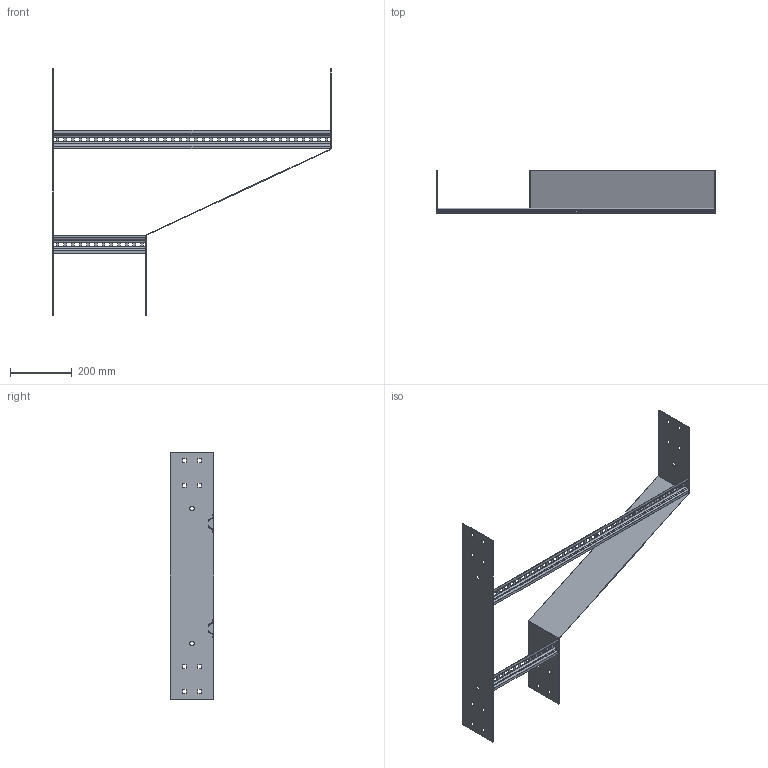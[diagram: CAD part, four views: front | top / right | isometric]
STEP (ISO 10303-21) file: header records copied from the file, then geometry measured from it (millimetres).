
FILE_DESCRIPTION (( 'STEP AP203' ), '1' );
FILE_NAME ('N20C LHR900300.STEP', '2024-08-28T22:26:29', ( '' ), ( '' ), 'SwSTEP 2.0', 'SolidWorks 2023', '' );
FILE_SCHEMA (( 'CONFIG_CONTROL_DESIGN' ));
Length unit declared in the file: millimetre
Products named in the file (5): N20C Tee Back Plate_800; Ladder Rung_Ladder Rung -  300mm; Ladder Rung_Ladder Rung -  900mm; N20C REDUCER_LHR300x900; N20C LHR900300
Assembly tree (4 placements, depth 2):
  N20C LHR900300
    N20C REDUCER_LHR300x900
    Ladder Rung_Ladder Rung -  300mm
    Ladder Rung_Ladder Rung -  900mm
    N20C Tee Back Plate_800
Bounding box: 904 x 140 x 800 mm (x, y, z)
Volume: 677015.7 mm3; surface area: 728646.8 mm2
Topology: 4 solids, 4 shells, 376 faces, 1024 edges, 656 vertices
Faces by surface type: plane 348, cylinder 28
Entity records: 12351 total; most frequent: CARTESIAN_POINT 2063, ORIENTED_EDGE 2048, DIRECTION 1846, EDGE_CURVE 1024, LINE 968, VECTOR 968, VERTEX_POINT 656, EDGE_LOOP 508
